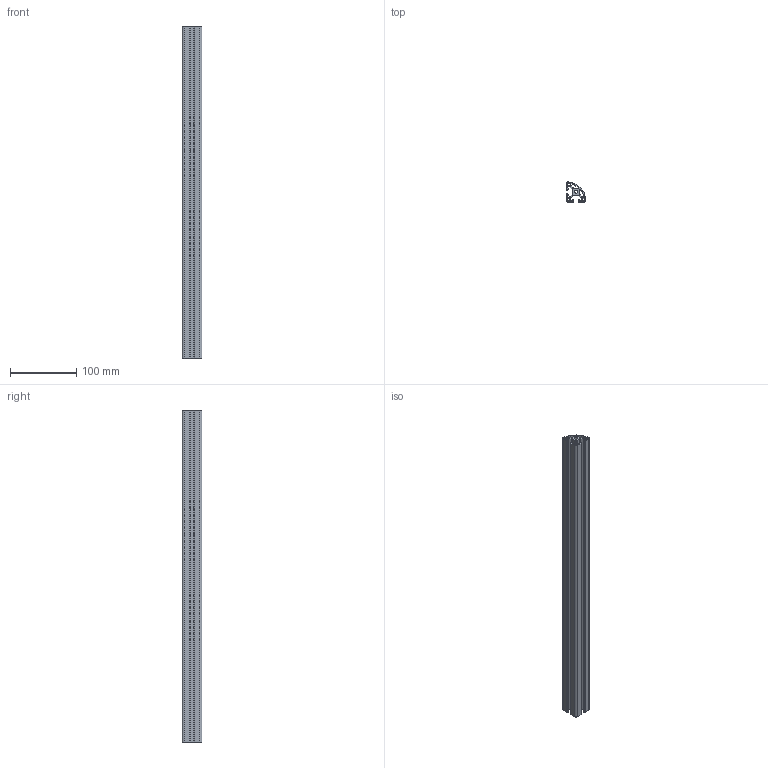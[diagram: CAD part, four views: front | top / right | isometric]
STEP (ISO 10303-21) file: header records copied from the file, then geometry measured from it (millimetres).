
FILE_DESCRIPTION (( 'STEP AP203' ), '1' );
FILE_NAME ('M ATP I6 30LR90.STEP', '2012-06-04T09:31:10', ( 'alle' ), ( 'Hewlett-Packard Company' ), 'SwSTEP 2.0', 'SolidWorks 2011', '' );
FILE_SCHEMA (( 'CONFIG_CONTROL_DESIGN' ));
Length unit declared in the file: millimetre
Products named in the file (1): M ATP I6 30LR90
Bounding box: 29.83 x 29.83 x 500 mm (x, y, z)
Volume: 149952 mm3; surface area: 148435.4 mm2
Topology: 1 solids, 1 shells, 106 faces, 312 edges, 208 vertices
Faces by surface type: cylinder 58, plane 48
Entity records: 3673 total; most frequent: DIRECTION 642, CARTESIAN_POINT 627, ORIENTED_EDGE 624, EDGE_CURVE 312, AXIS2_PLACEMENT_3D 223, VERTEX_POINT 208, LINE 196, VECTOR 196
